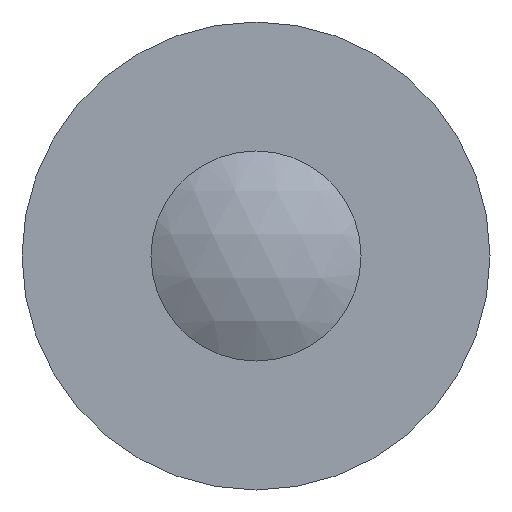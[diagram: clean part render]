
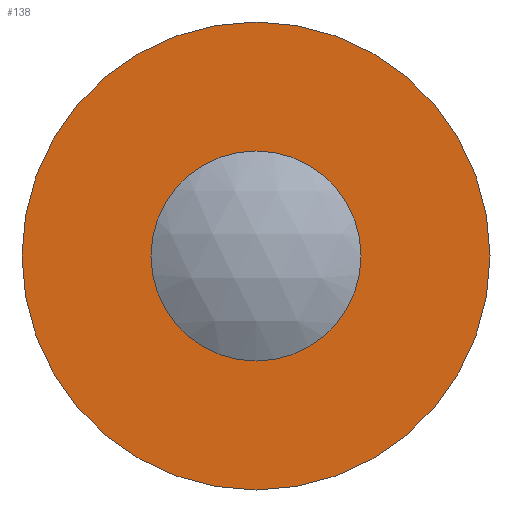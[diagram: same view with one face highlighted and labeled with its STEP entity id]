
A CAD part, left-side view. The second image highlights one B-rep face of the part: STEP entity #138.
In plain terms, the highlighted planar face has unit normal (-1, 0, 0).
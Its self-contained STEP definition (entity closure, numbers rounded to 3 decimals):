
#15=PLANE($,#158);
#22=FACE_BOUND($,#56,.T.);
#40=FACE_OUTER_BOUND($,#55,.T.);
#55=EDGE_LOOP($,(#115));
#56=EDGE_LOOP($,(#116));
#75=CIRCLE($,#157,0.508);
#76=CIRCLE($,#159,1.98);
#87=VERTEX_POINT($,#238);
#88=VERTEX_POINT($,#241);
#99=EDGE_CURVE($,#87,#87,#75,.T.);
#100=EDGE_CURVE($,#88,#88,#76,.T.);
#115=ORIENTED_EDGE($,*,*,#100,.F.);
#116=ORIENTED_EDGE($,*,*,#99,.T.);
#138=ADVANCED_FACE($,(#40,#22),#15,.T.);
#157=AXIS2_PLACEMENT_3D($,#239,#191,#192);
#158=AXIS2_PLACEMENT_3D($,#240,#193,#194);
#159=AXIS2_PLACEMENT_3D($,#242,#195,#196);
#191=DIRECTION('center_axis',(1.,0.,0.));
#192=DIRECTION('ref_axis',(0.,1.,0.));
#193=DIRECTION('center_axis',(-1.,0.,0.));
#194=DIRECTION('ref_axis',(0.,0.,1.));
#195=DIRECTION('center_axis',(1.,0.,0.));
#196=DIRECTION('ref_axis',(0.,1.,0.));
#238=CARTESIAN_POINT('',(3.071,0.508,0.));
#239=CARTESIAN_POINT('Origin',(3.071,0.,0.));
#240=CARTESIAN_POINT('Origin',(3.071,1.244,0.));
#241=CARTESIAN_POINT('',(3.071,1.98,0.));
#242=CARTESIAN_POINT('Origin',(3.071,0.,0.));
